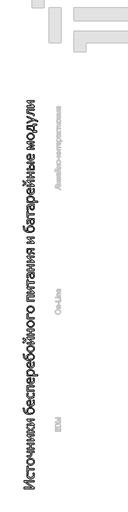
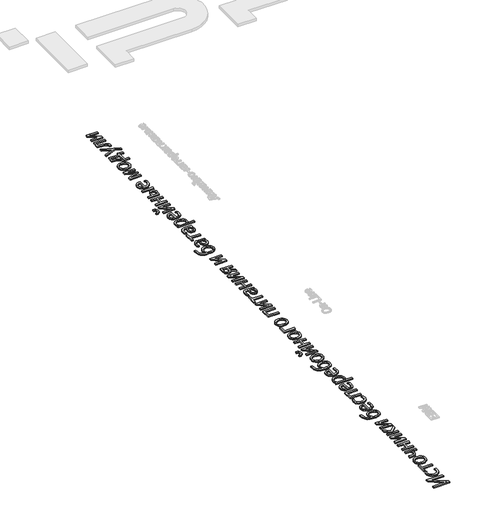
# One storey, part 2 of 14: 1 proxy.
"""IFC4 building model written with IfcOpenShell, lengths in millimetres."""

from ifc_helpers import new_model, si_unit, origin, origin_with_axes, place, context, project, spatial, polyline, outline, extrude, element, save

model = new_model("IFC4")

# Units and contexts
model_context = context("Model", 3, world=origin())
ifc_project = project(units=[si_unit("LENGTHUNIT", "METRE", prefix="MILLI")], contexts=[model_context])

# Site, building, storey
site = spatial("IfcSite", under=ifc_project)
building = spatial("IfcBuilding", under=site)
storey = spatial("IfcBuildingStorey", under=building, Name="Этаж 01", Elevation=0.0)

# Proxy
placement = place(None, origin())
element("IfcBuildingElementProxy", 1, Name="300 мм Corbel", ObjectType="300 мм Corbel", at=placement, inside=storey, context=model_context, shape_type="SweptSolid", body=[
    extrude(outline(polyline([(1442.0785227, -10444.0301069), (1442.0785227, -10407.4240139), (1742.5788966, -10407.4240139), (1742.5788966, -10446.377766), (1606.6755157, -10446.377766), (1493.2922728, -10443.5084048), (1575.0255921, -10498.5479698), (1742.5788966, -10615.6700774), (1742.5788966, -10652.2761704), (1442.0785227, -10652.2761704), (1442.0785227, -10613.3224182), (1593.8938158, -10613.3224182), (1691.3651465, -10616.1917794), (1609.6318273, -10561.1522144), (1442.0785227, -10444.0301069)])), origin_with_axes(), (0.0, 0.0, 1.0), 20.0),
    extrude(outline(polyline([(1525.5508488, -10251.3481542), (1528.6375859, -10221.9154642), (1537.2021943, -10197.8736953), (1564.504601, -10197.8736953), (1556.1573684, -10223.7414213), (1553.3749575, -10247.7831903), (1557.7224745, -10273.4335405), (1572.0258054, -10296.1275791), (1583.5902005, -10305.1595456), (1598.3717583, -10312.2568671), (1616.7291487, -10316.8543663), (1639.0210421, -10318.3868661), (1671.5404691, -10313.8219732), (1697.2777696, -10300.2577202), (1706.9509949, -10290.1062681), (1714.2330859, -10277.6506319), (1718.7979787, -10262.9886309), (1720.3196097, -10246.2180841), (1717.4067733, -10220.1764574), (1709.1899662, -10194.5695824), (1736.6662735, -10194.5695824), (1740.883365, -10204.4384459), (1744.6222296, -10217.9157486), (1747.1872646, -10233.5233346), (1748.1437183, -10250.0438991), (1746.5351371, -10270.8467679), (1741.7093932, -10290.475807), (1733.5360613, -10308.1375948), (1721.8847158, -10323.0387092), (1706.7227503, -10335.0813313), (1688.0175585, -10344.1676418), (1665.6604524, -10349.8737578), (1639.5427441, -10351.7757965), (1601.893247, -10347.7760809), (1572.5040322, -10336.7333877), (1550.8968728, -10320.0389225), (1536.3326909, -10298.90999), (1528.1158838, -10275.1725473), (1525.5508488, -10251.3481542)])), origin_with_axes(), (0.0, 0.0, 1.0), 20.0),
    extrude(outline(polyline([(1558.9397792, -10090.2291748), (1558.9397792, -10162.224056), (1531.1156706, -10162.224056), (1531.1156706, -9984.8453631), (1558.9397792, -9984.8453631), (1558.9397792, -10056.8402444), (1742.5788966, -10056.8402444), (1742.5788966, -10090.2291748), (1558.9397792, -10090.2291748)])), origin_with_axes(), (0.0, 0.0, 1.0), 20.0),
    extrude(outline(polyline([(1637.1081346, -9750.7750487), (1660.8781837, -9752.5466619), (1682.4527367, -9757.8615014), (1701.4622547, -9766.4261099), (1717.5371988, -9777.9470299), (1730.4927994, -9792.3047047), (1740.1442871, -9809.3795777), (1746.1438605, -9828.9216665), (1748.1437183, -9850.680989), (1746.1438605, -9872.9946199), (1740.1442871, -9892.8084286), (1730.4927994, -9909.9811207), (1717.5371988, -9924.3714019), (1701.4622547, -9935.8379779), (1682.4527367, -9944.2395545), (1660.8781837, -9949.3913621), (1637.1081346, -9951.1086313), (1613.0772345, -9949.3370182), (1591.4157311, -9944.0221786), (1572.3844755, -9935.4575702), (1556.2443187, -9923.9366502), (1543.2235053, -9909.546369), (1533.5502801, -9892.3736769), (1527.5507066, -9872.7337689), (1525.5508488, -9850.94184), (1527.5507066, -9828.8021098), (1533.5502801, -9808.9883012), (1543.2235053, -9791.7721339), (1556.2443187, -9777.4253279), (1572.3844755, -9766.0239646), (1591.4157311, -9757.6441256), (1613.0772345, -9752.492318), (1637.1081346, -9750.7750487)]), holes=[polyline([(1637.1081346, -9784.1639792), (1601.5889208, -9789.1201485), (1575.2864431, -9802.9887277), (1558.9397792, -9824.1611354), (1553.3749575, -9850.94184), (1558.9397792, -9877.7225447), (1575.2864431, -9898.8949524), (1601.5889208, -9912.7635315), (1637.1081346, -9917.7197009), (1672.3664973, -9912.7635315), (1698.5385496, -9898.7645269), (1714.7547879, -9877.5051688), (1720.3196097, -9850.680989), (1714.7547879, -9824.0307099), (1698.5385496, -9802.9887277), (1672.3664973, -9789.1201485), (1637.1081346, -9784.1639792)])]), origin_with_axes(), (0.0, 0.0, 1.0), 20.0),
    extrude(outline(polyline([(1649.5420332, -9572.7007531), (1660.236925, -9597.9163516), (1664.6713923, -9631.9139344), (1661.7585559, -9658.6076887), (1651.1940896, -9682.7798831), (1642.1186479, -9692.3444205), (1630.1955826, -9699.8221497), (1614.9684044, -9704.6478936), (1595.9806239, -9706.2564748), (1531.1156706, -9706.2564748), (1531.1156706, -9672.8675444), (1592.154809, -9672.8675444), (1610.1535293, -9670.9981121), (1624.3699098, -9664.2594608), (1633.5866458, -9650.9125836), (1636.8472836, -9629.4793249), (1632.7171424, -9598.3945785), (1620.7614707, -9572.7007531), (1531.1156706, -9572.7007531), (1531.1156706, -9539.3118227), (1742.5788966, -9539.3118227), (1742.5788966, -9572.7007531), (1649.5420332, -9572.7007531)])), origin_with_axes(), (0.0, 0.0, 1.0), 20.0),
    extrude(outline(polyline([(1742.5788966, -9333.4134184), (1647.9769271, -9333.4134184), (1647.9769271, -9439.1450314), (1742.5788966, -9439.1450314), (1742.5788966, -9472.5339618), (1531.1156706, -9472.5339618), (1531.1156706, -9439.1450314), (1620.1528184, -9439.1450314), (1620.1528184, -9333.4134184), (1531.1156706, -9333.4134184), (1531.1156706, -9300.0244879), (1742.5788966, -9300.0244879), (1742.5788966, -9333.4134184)])), origin_with_axes(), (0.0, 0.0, 1.0), 20.0),
    extrude(outline(polyline([(1742.5788966, -9196.9883354), (1742.5788966, -9227.6818053), (1531.1156706, -9227.6818053), (1531.1156706, -9194.2928749), (1647.1074237, -9194.2928749), (1692.9302527, -9195.4232293), (1669.7579871, -9179.1635158), (1642.846857, -9159.512739), (1531.1156706, -9074.7361579), (1531.1156706, -9044.042688), (1742.5788966, -9044.042688), (1742.5788966, -9077.4316184), (1626.5871435, -9077.4316184), (1580.7643145, -9076.301264), (1603.93658, -9092.6479278), (1630.8477101, -9112.3856549), (1742.5788966, -9196.9883354)])), origin_with_axes(), (0.0, 0.0, 1.0), 20.0),
    extrude(outline(polyline([(1634.5865747, -8943.7672088), (1531.1156706, -8851.1868346), (1531.1156706, -8807.1030124), (1636.4125319, -8902.6614357), (1742.5788966, -8801.2773396), (1742.5788966, -8845.8828639), (1638.9340917, -8943.441145), (1742.5788966, -8943.8758967), (1742.5788966, -8977.2648271), (1531.1156706, -8977.2648271), (1531.1156706, -8943.8758967), (1634.5865747, -8943.7672088)])), origin_with_axes(), (0.0, 0.0, 1.0), 20.0),
    extrude(outline(polyline([(1742.5788966, -8729.5433094), (1742.5788966, -8760.2367793), (1531.1156706, -8760.2367793), (1531.1156706, -8726.8478489), (1647.1074237, -8726.8478489), (1692.9302527, -8727.9782033), (1669.7579871, -8711.7184898), (1642.846857, -8692.067713), (1531.1156706, -8607.2911318), (1531.1156706, -8576.5976619), (1742.5788966, -8576.5976619), (1742.5788966, -8609.9865924), (1626.5871435, -8609.9865924), (1580.7643145, -8608.856238), (1603.93658, -8625.2029018), (1630.8477101, -8644.9406289), (1742.5788966, -8729.5433094)])), origin_with_axes(), (0.0, 0.0, 1.0), 20.0),
    extrude(outline(polyline([(1554.3314112, -8394.2627997), (1537.1587192, -8359.9608907), (1531.1156706, -8326.0937334), (1532.767727, -8306.7472828), (1537.7238964, -8289.40069), (1545.8428843, -8274.2387246), (1556.9833966, -8261.4461558), (1571.1345644, -8251.1534094), (1588.2855189, -8243.4909107), (1608.3167034, -8238.7303796), (1631.1085612, -8237.1435359), (1656.6936986, -8238.7847236), (1679.713801, -8243.7082865), (1699.7993295, -8251.7837993), (1716.5807451, -8262.8808364), (1729.9819662, -8276.9341851), (1739.9269113, -8293.8786325), (1746.0895166, -8313.5620157), (1748.1437183, -8335.8321714), (1745.9699599, -8357.3958557), (1739.4486844, -8376.5249304), (1728.2864345, -8393.0237573), (1712.1897529, -8406.6966982), (1691.0064764, -8417.5111467), (1664.5844419, -8425.4344964), (1632.6519297, -8430.2928467), (1594.9372199, -8431.9122967), (1557.8420312, -8430.2167651), (1525.6812743, -8425.1301703), (1498.2158358, -8416.3590547), (1475.2066021, -8403.6099612), (1456.6100983, -8386.7633329), (1442.3828489, -8365.6996131), (1432.3292159, -8340.147082), (1426.2535609, -8309.8340199), (1419.8192358, -8257.2290644), (1447.6433445, -8257.2290644), (1454.2515703, -8308.7036654), (1461.8162498, -8345.440184), (1468.0440679, -8359.78699), (1477.1629848, -8371.6122362), (1489.7490465, -8380.9593977), (1506.3782989, -8387.8719497), (1554.3314112, -8394.2627997)]), holes=[polyline([(1558.9397792, -8333.2236612), (1560.6244421, -8350.048552), (1565.6784306, -8367.3081944), (1583.2858743, -8398.5233663), (1604.3278565, -8399.218969), (1655.9763583, -8394.5671259), (1691.9737989, -8381.2637239), (1704.4294351, -8371.7209241), (1713.2766321, -8360.3956424), (1718.5588653, -8347.4943857), (1720.3196097, -8333.2236612), (1714.5808872, -8307.2689848), (1707.4618282, -8296.5849619), (1697.5820958, -8287.5747329), (1669.7579871, -8274.9669337), (1631.8911142, -8270.5324663), (1598.3282831, -8275.8799122), (1575.7211948, -8289.9658672), (1562.9394949, -8310.0513957), (1558.9397792, -8333.2236612)])]), origin_with_axes(), (0.0, 0.0, 1.0), 20.0),
    extrude(outline(polyline([(1720.3196097, -8082.6327823), (1717.4067733, -8051.2871849), (1709.1899662, -8023.0717997), (1736.6662735, -8023.0717997), (1745.0569813, -8051.1567594), (1748.1437183, -8087.0672496), (1742.3615208, -8129.7163912), (1734.7968412, -8148.1498633), (1723.6671977, -8163.5400734), (1708.7769521, -8175.8435464), (1689.9304659, -8185.0168073), (1666.9647075, -8190.7229233), (1639.7166448, -8192.624962), (1612.6968267, -8190.6468418), (1589.5462988, -8184.7124811), (1570.0694227, -8175.4957451), (1554.0705602, -8163.6704989), (1541.5931865, -8149.5410687), (1532.6807767, -8133.4117807), (1527.3333308, -8115.9130248), (1525.5508488, -8097.6751911), (1531.3765216, -8064.894913), (1538.8759884, -8050.6785325), (1549.7230432, -8038.4620098), (1564.0589805, -8028.4301143), (1582.0250944, -8020.7676157), (1603.7735481, -8015.9092654), (1629.4565047, -8014.2898153), (1633.9344472, -8014.2898153), (1642.4121053, -8014.5506664), (1642.4121053, -8161.0619887), (1662.1063573, -8159.529489), (1678.5834466, -8154.9319897), (1692.0390117, -8147.6825052), (1702.6686907, -8138.1940494), (1716.1025182, -8113.3262522), (1720.3196097, -8082.6327823)]), holes=[polyline([(1553.3749575, -8099.1533469), (1558.2007014, -8122.0212862), (1571.3302026, -8140.4547582), (1590.7636036, -8153.2364581), (1614.5879966, -8159.2360316), (1614.5879966, -8047.9395968), (1590.5462277, -8051.2871849), (1571.1128268, -8061.1560484), (1558.113751, -8077.1549109), (1553.3749575, -8099.1533469)])]), origin_with_axes(), (0.0, 0.0, 1.0), 20.0),
    extrude(outline(polyline([(1525.5508488, -7864.0396284), (1528.6375859, -7834.6069384), (1537.2021943, -7810.5651695), (1564.504601, -7810.5651695), (1556.1573684, -7836.4328956), (1553.3749575, -7860.4746645), (1557.7224745, -7886.1250147), (1572.0258054, -7908.8190533), (1583.5902005, -7917.8510199), (1598.3717583, -7924.9483413), (1616.7291487, -7929.5458406), (1639.0210421, -7931.0783403), (1671.5404691, -7926.5134475), (1697.2777696, -7912.9491945), (1706.9509949, -7902.7977423), (1714.2330859, -7890.3421062), (1718.7979787, -7875.6801051), (1720.3196097, -7858.9095584), (1717.4067733, -7832.8679316), (1709.1899662, -7807.2610566), (1736.6662735, -7807.2610566), (1740.883365, -7817.1299202), (1744.6222296, -7830.6072228), (1747.1872646, -7846.2148088), (1748.1437183, -7862.7353733), (1746.5351371, -7883.5382421), (1741.7093932, -7903.1672813), (1733.5360613, -7920.829069), (1721.8847158, -7935.7301835), (1706.7227503, -7947.7728055), (1688.0175585, -7956.859116), (1665.6604524, -7962.565232), (1639.5427441, -7964.4672707), (1601.893247, -7960.4675551), (1572.5040322, -7949.424862), (1550.8968728, -7932.7303967), (1536.3326909, -7911.6014642), (1528.1158838, -7887.8640215), (1525.5508488, -7864.0396284)])), origin_with_axes(), (0.0, 0.0, 1.0), 20.0),
    extrude(outline(polyline([(1558.9397792, -7719.6151142), (1742.5788966, -7719.6151142), (1742.5788966, -7753.0040447), (1531.1156706, -7753.0040447), (1531.1156706, -7580.4945708), (1742.5788966, -7580.4945708), (1742.5788966, -7613.8835012), (1558.9397792, -7613.8835012), (1558.9397792, -7719.6151142)])), origin_with_axes(), (0.0, 0.0, 1.0), 20.0),
    extrude(outline(polyline([(1720.3196097, -7414.8541737), (1717.4067733, -7383.5085763), (1709.1899662, -7355.293191), (1736.6662735, -7355.293191), (1745.0569813, -7383.3781508), (1748.1437183, -7419.288641), (1742.3615208, -7461.9377826), (1734.7968412, -7480.3712546), (1723.6671977, -7495.7614648), (1708.7769521, -7508.0649378), (1689.9304659, -7517.2381987), (1666.9647075, -7522.9443147), (1639.7166448, -7524.8463534), (1612.6968267, -7522.8682332), (1589.5462988, -7516.9338725), (1570.0694227, -7507.7171365), (1554.0705602, -7495.8918903), (1541.5931865, -7481.7624601), (1532.6807767, -7465.6331721), (1527.3333308, -7448.1344162), (1525.5508488, -7429.8965825), (1531.3765216, -7397.1163044), (1538.8759884, -7382.8999239), (1549.7230432, -7370.6834012), (1564.0589805, -7360.6515057), (1582.0250944, -7352.989007), (1603.7735481, -7348.1306568), (1629.4565047, -7346.5112067), (1633.9344472, -7346.5112067), (1642.4121053, -7346.7720578), (1642.4121053, -7493.2833801), (1662.1063573, -7491.7508804), (1678.5834466, -7487.1533811), (1692.0390117, -7479.9038966), (1702.6686907, -7470.4154408), (1716.1025182, -7445.5476436), (1720.3196097, -7414.8541737)]), holes=[polyline([(1553.3749575, -7431.3747382), (1558.2007014, -7454.2426776), (1571.3302026, -7472.6761496), (1590.7636036, -7485.4578495), (1614.5879966, -7491.457423), (1614.5879966, -7380.1609882), (1590.5462277, -7383.5085763), (1571.1128268, -7393.3774398), (1558.113751, -7409.3763023), (1553.3749575, -7431.3747382)])]), origin_with_axes(), (0.0, 0.0, 1.0), 20.0),
    extrude(outline(polyline([(1634.4126741, -7101.9199013), (1673.4533766, -7106.2239431), (1703.1903927, -7117.5274872), (1724.4497508, -7133.9611014), (1738.2313796, -7153.5249279), (1745.7960592, -7174.0886832), (1748.1437183, -7193.7394599), (1746.5568747, -7211.596886), (1741.7963436, -7226.9110145), (1733.9273378, -7240.2470229), (1723.0150702, -7252.1700882), (1848.3105096, -7252.7787406), (1848.3105096, -7285.5590186), (1531.1156706, -7285.5590186), (1531.1156706, -7260.0825691), (1555.1139643, -7252.8656909), (1546.4624055, -7244.9097348), (1537.4630453, -7232.910588), (1529.1158127, -7214.7814421), (1525.5508488, -7191.7396021), (1531.5504222, -7158.0898207), (1539.3324776, -7142.7865609), (1550.679497, -7129.3962086), (1565.6784306, -7118.1904836), (1584.4162288, -7109.4411056), (1607.2189553, -7103.8002024), (1634.4126741, -7101.9199013)]), holes=[polyline([(1634.6735251, -7135.3088317), (1600.849843, -7139.221597), (1575.3299183, -7150.9598928), (1559.0702048, -7170.2193931), (1553.3749575, -7196.6088212), (1556.4616946, -7216.2161228), (1564.24375, -7232.2149852), (1574.3734645, -7244.5184583), (1584.0684274, -7252.7787406), (1694.7562098, -7252.7787406), (1713.4505328, -7227.8239931), (1718.6023404, -7213.3032864), (1720.3196097, -7197.7391756), (1716.5807451, -7176.9580444), (1703.1903927, -7156.6986153), (1676.9313902, -7141.3518803), (1658.0631665, -7136.8195938), (1634.6735251, -7135.3088317)])]), origin_with_axes(), (0.0, 0.0, 1.0), 20.0),
    extrude(outline(polyline([(1720.3196097, -6941.8443259), (1717.4067733, -6910.4987285), (1709.1899662, -6882.2833433), (1736.6662735, -6882.2833433), (1745.0569813, -6910.368303), (1748.1437183, -6946.2787933), (1742.3615208, -6988.9279349), (1734.7968412, -7007.3614069), (1723.6671977, -7022.751617), (1708.7769521, -7035.0550901), (1689.9304659, -7044.2283509), (1666.9647075, -7049.9344669), (1639.7166448, -7051.8365056), (1612.6968267, -7049.8583854), (1589.5462988, -7043.9240247), (1570.0694227, -7034.7072887), (1554.0705602, -7022.8820425), (1541.5931865, -7008.7526123), (1532.6807767, -6992.6233243), (1527.3333308, -6975.1245685), (1525.5508488, -6956.8867347), (1531.3765216, -6924.1064567), (1538.8759884, -6909.8900761), (1549.7230432, -6897.6735534), (1564.0589805, -6887.641658), (1582.0250944, -6879.9791593), (1603.7735481, -6875.120809), (1629.4565047, -6873.501359), (1633.9344472, -6873.501359), (1642.4121053, -6873.76221), (1642.4121053, -7020.2735323), (1662.1063573, -7018.7410326), (1678.5834466, -7014.1435334), (1692.0390117, -7006.8940488), (1702.6686907, -6997.405593), (1716.1025182, -6972.5377958), (1720.3196097, -6941.8443259)]), holes=[polyline([(1553.3749575, -6958.3648905), (1558.2007014, -6981.2328298), (1571.3302026, -6999.6663018), (1590.7636036, -7012.4480018), (1614.5879966, -7018.4475752), (1614.5879966, -6907.1511404), (1590.5462277, -6910.4987285), (1571.1128268, -6920.367592), (1558.113751, -6936.3664545), (1553.3749575, -6958.3648905)])]), origin_with_axes(), (0.0, 0.0, 1.0), 20.0),
    extrude(outline(polyline([(1554.3314112, -6786.0293173), (1537.1587192, -6751.7274083), (1531.1156706, -6717.860251), (1532.767727, -6698.5138004), (1537.7238964, -6681.1672076), (1545.8428843, -6666.0052422), (1556.9833966, -6653.2126734), (1571.1345644, -6642.919927), (1588.2855189, -6635.2574283), (1608.3167034, -6630.4968972), (1631.1085612, -6628.9100535), (1656.6936986, -6630.5512412), (1679.713801, -6635.4748041), (1699.7993295, -6643.5503169), (1716.5807451, -6654.647354), (1729.9819662, -6668.7007027), (1739.9269113, -6685.6451501), (1746.0895166, -6705.3285333), (1748.1437183, -6727.598689), (1745.9699599, -6749.1623733), (1739.4486844, -6768.291448), (1728.2864345, -6784.7902749), (1712.1897529, -6798.4632158), (1691.0064764, -6809.2776643), (1664.5844419, -6817.201014), (1632.6519297, -6822.0593643), (1594.9372199, -6823.6788143), (1557.8420312, -6821.9832827), (1525.6812743, -6816.8966879), (1498.2158358, -6808.1255723), (1475.2066021, -6795.3764788), (1456.6100983, -6778.5298505), (1442.3828489, -6757.4661307), (1432.3292159, -6731.9135996), (1426.2535609, -6701.6005375), (1419.8192358, -6648.995582), (1447.6433445, -6648.995582), (1454.2515703, -6700.470183), (1461.8162498, -6737.2067016), (1468.0440679, -6751.5535076), (1477.1629848, -6763.3787538), (1489.7490465, -6772.7259153), (1506.3782989, -6779.6384673), (1554.3314112, -6786.0293173)]), holes=[polyline([(1558.9397792, -6724.9901788), (1560.6244421, -6741.8150696), (1565.6784306, -6759.074712), (1583.2858743, -6790.2898839), (1604.3278565, -6790.9854866), (1655.9763583, -6786.3336435), (1691.9737989, -6773.0302415), (1704.4294351, -6763.4874417), (1713.2766321, -6752.16216), (1718.5588653, -6739.2609033), (1720.3196097, -6724.9901788), (1714.5808872, -6699.0355024), (1707.4618282, -6688.3514795), (1697.5820958, -6679.3412505), (1669.7579871, -6666.7334513), (1631.8911142, -6662.2989839), (1598.3282831, -6667.6464298), (1575.7211948, -6681.7323848), (1562.9394949, -6701.8179133), (1558.9397792, -6724.9901788)])]), origin_with_axes(), (0.0, 0.0, 1.0), 20.0),
    extrude(outline(polyline([(1637.1081346, -6384.057897), (1660.8781837, -6385.8295102), (1682.4527367, -6391.1443497), (1701.4622547, -6399.7089581), (1717.5371988, -6411.2298782), (1730.4927994, -6425.587553), (1740.1442871, -6442.6624259), (1746.1438605, -6462.2045148), (1748.1437183, -6483.9638373), (1746.1438605, -6506.2774682), (1740.1442871, -6526.0912768), (1730.4927994, -6543.2639689), (1717.5371988, -6557.6542501), (1701.4622547, -6569.1208262), (1682.4527367, -6577.5224028), (1660.8781837, -6582.6742104), (1637.1081346, -6584.3914796), (1613.0772345, -6582.6198664), (1591.4157311, -6577.3050269), (1572.3844755, -6568.7404185), (1556.2443187, -6557.2194984), (1543.2235053, -6542.8292172), (1533.5502801, -6525.6565252), (1527.5507066, -6506.0166172), (1525.5508488, -6484.2246883), (1527.5507066, -6462.0849581), (1533.5502801, -6442.2711494), (1543.2235053, -6425.0549822), (1556.2443187, -6410.7081761), (1572.3844755, -6399.3068128), (1591.4157311, -6390.9269738), (1613.0772345, -6385.7751662), (1637.1081346, -6384.057897)]), holes=[polyline([(1637.1081346, -6417.4468274), (1601.5889208, -6422.4029968), (1575.2864431, -6436.271576), (1558.9397792, -6457.4439837), (1553.3749575, -6484.2246883), (1558.9397792, -6511.0053929), (1575.2864431, -6532.1778006), (1601.5889208, -6546.0463798), (1637.1081346, -6551.0025492), (1672.3664973, -6546.0463798), (1698.5385496, -6532.0473751), (1714.7547879, -6510.7880171), (1720.3196097, -6483.9638373), (1714.7547879, -6457.3135582), (1698.5385496, -6436.271576), (1672.3664973, -6422.4029968), (1637.1081346, -6417.4468274)])]), origin_with_axes(), (0.0, 0.0, 1.0), 20.0),
    extrude(outline(polyline([(1458.772988, -6234.1555114), (1455.892758, -6219.0478899), (1447.2520679, -6207.1139558), (1433.2421945, -6198.7449856), (1414.254414, -6194.3322559), (1414.254414, -6163.1170839), (1442.2089482, -6169.1166574), (1465.1638379, -6183.2460876), (1480.8148991, -6205.0706228), (1485.1515472, -6218.8196453), (1486.5970966, -6234.4163625), (1485.1515472, -6249.784835), (1480.8148991, -6263.3708256), (1465.1638379, -6284.8475595), (1442.2089482, -6298.542238), (1414.254414, -6304.3244355), (1414.254414, -6273.3701146), (1433.2421945, -6269.0660728), (1447.2520679, -6261.0231664), (1455.892758, -6249.3500833), (1458.772988, -6234.1555114)])), origin_with_axes(), (0.0, 0.0, 1.0), 20.0),
    extrude(outline(polyline([(1742.5788966, -6297.7162097), (1742.5788966, -6328.4096796), (1531.1156706, -6328.4096796), (1531.1156706, -6295.0207492), (1647.1074237, -6295.0207492), (1692.9302527, -6296.1511036), (1669.7579871, -6279.8913901), (1642.846857, -6260.2406133), (1531.1156706, -6175.4640322), (1531.1156706, -6144.7705623), (1742.5788966, -6144.7705623), (1742.5788966, -6178.1594927), (1626.5871435, -6178.1594927), (1580.7643145, -6177.0291383), (1603.93658, -6193.3758021), (1630.8477101, -6213.1135292), (1742.5788966, -6297.7162097)])), origin_with_axes(), (0.0, 0.0, 1.0), 20.0),
    extrude(outline(polyline([(1742.5788966, -5938.8721579), (1647.9769271, -5938.8721579), (1647.9769271, -6044.603771), (1742.5788966, -6044.603771), (1742.5788966, -6077.9927014), (1531.1156706, -6077.9927014), (1531.1156706, -6044.603771), (1620.1528184, -6044.603771), (1620.1528184, -5938.8721579), (1531.1156706, -5938.8721579), (1531.1156706, -5905.4832275), (1742.5788966, -5905.4832275), (1742.5788966, -5938.8721579)])), origin_with_axes(), (0.0, 0.0, 1.0), 20.0),
    extrude(outline(polyline([(1637.1081346, -5643.9366058), (1660.8781837, -5645.708219), (1682.4527367, -5651.0230585), (1701.4622547, -5659.5876669), (1717.5371988, -5671.1085869), (1730.4927994, -5685.4662618), (1740.1442871, -5702.5411347), (1746.1438605, -5722.0832236), (1748.1437183, -5743.8425461), (1746.1438605, -5766.156177), (1740.1442871, -5785.9699856), (1730.4927994, -5803.1426777), (1717.5371988, -5817.5329589), (1701.4622547, -5828.999535), (1682.4527367, -5837.4011116), (1660.8781837, -5842.5529192), (1637.1081346, -5844.2701884), (1613.0772345, -5842.4985752), (1591.4157311, -5837.1837357), (1572.3844755, -5828.6191272), (1556.2443187, -5817.0982072), (1543.2235053, -5802.707926), (1533.5502801, -5785.5352339), (1527.5507066, -5765.895326), (1525.5508488, -5744.1033971), (1527.5507066, -5721.9636669), (1533.5502801, -5702.1498582), (1543.2235053, -5684.933691), (1556.2443187, -5670.5868849), (1572.3844755, -5659.1855216), (1591.4157311, -5650.8056826), (1613.0772345, -5645.653875), (1637.1081346, -5643.9366058)]), holes=[polyline([(1637.1081346, -5677.3255362), (1601.5889208, -5682.2817056), (1575.2864431, -5696.1502848), (1558.9397792, -5717.3226925), (1553.3749575, -5744.1033971), (1558.9397792, -5770.8841017), (1575.2864431, -5792.0565094), (1601.5889208, -5805.9250886), (1637.1081346, -5810.881258), (1672.3664973, -5805.9250886), (1698.5385496, -5791.9260839), (1714.7547879, -5770.6667259), (1720.3196097, -5743.8425461), (1714.7547879, -5717.192267), (1698.5385496, -5696.1502848), (1672.3664973, -5682.2817056), (1637.1081346, -5677.3255362)])]), origin_with_axes(), (0.0, 0.0, 1.0), 20.0),
    extrude(outline(polyline([(1558.9397792, -5445.5159307), (1558.9397792, -5554.899458), (1742.5788966, -5554.899458), (1742.5788966, -5588.2883884), (1531.1156706, -5588.2883884), (1531.1156706, -5445.5159307), (1558.9397792, -5445.5159307)])), origin_with_axes(), (0.0, 0.0, 1.0), 20.0),
    extrude(outline(polyline([(1637.1081346, -5209.8805102), (1660.8781837, -5211.6521234), (1682.4527367, -5216.9669629), (1701.4622547, -5225.5315713), (1717.5371988, -5237.0524914), (1730.4927994, -5251.4101662), (1740.1442871, -5268.4850391), (1746.1438605, -5288.027128), (1748.1437183, -5309.7864505), (1746.1438605, -5332.1000814), (1740.1442871, -5351.91389), (1730.4927994, -5369.0865821), (1717.5371988, -5383.4768633), (1701.4622547, -5394.9434394), (1682.4527367, -5403.345016), (1660.8781837, -5408.4968236), (1637.1081346, -5410.2140928), (1613.0772345, -5408.4424796), (1591.4157311, -5403.1276401), (1572.3844755, -5394.5630316), (1556.2443187, -5383.0421116), (1543.2235053, -5368.6518304), (1533.5502801, -5351.4791383), (1527.5507066, -5331.8392304), (1525.5508488, -5310.0473015), (1527.5507066, -5287.9075713), (1533.5502801, -5268.0937626), (1543.2235053, -5250.8775954), (1556.2443187, -5236.5307893), (1572.3844755, -5225.129426), (1591.4157311, -5216.749587), (1613.0772345, -5211.5977794), (1637.1081346, -5209.8805102)]), holes=[polyline([(1637.1081346, -5243.2694406), (1601.5889208, -5248.22561), (1575.2864431, -5262.0941892), (1558.9397792, -5283.2665969), (1553.3749575, -5310.0473015), (1558.9397792, -5336.8280061), (1575.2864431, -5358.0004138), (1601.5889208, -5371.868993), (1637.1081346, -5376.8251624), (1672.3664973, -5371.868993), (1698.5385496, -5357.8699883), (1714.7547879, -5336.6106303), (1720.3196097, -5309.7864505), (1714.7547879, -5283.1361714), (1698.5385496, -5262.0941892), (1672.3664973, -5248.22561), (1637.1081346, -5243.2694406)])]), origin_with_axes(), (0.0, 0.0, 1.0), 20.0),
    extrude(outline(polyline([(1558.9397792, -5031.8062146), (1742.5788966, -5031.8062146), (1742.5788966, -5065.195145), (1531.1156706, -5065.195145), (1531.1156706, -4892.6856711), (1742.5788966, -4892.6856711), (1742.5788966, -4926.0746015), (1558.9397792, -4926.0746015), (1558.9397792, -5031.8062146)])), origin_with_axes(), (0.0, 0.0, 1.0), 20.0),
    extrude(outline(polyline([(1742.5788966, -4795.2143404), (1742.5788966, -4825.9078103), (1531.1156706, -4825.9078103), (1531.1156706, -4792.5188798), (1647.1074237, -4792.5188798), (1692.9302527, -4793.6492342), (1669.7579871, -4777.3895207), (1642.846857, -4757.738744), (1531.1156706, -4672.9621628), (1531.1156706, -4642.2686929), (1742.5788966, -4642.2686929), (1742.5788966, -4675.6576233), (1626.5871435, -4675.6576233), (1580.7643145, -4674.5272689), (1603.93658, -4690.8739328), (1630.8477101, -4710.6116599), (1742.5788966, -4795.2143404)])), origin_with_axes(), (0.0, 0.0, 1.0), 20.0),
    extrude(outline(polyline([(1558.9397792, -4525.4074364), (1558.9397792, -4597.4023176), (1531.1156706, -4597.4023176), (1531.1156706, -4420.0236247), (1558.9397792, -4420.0236247), (1558.9397792, -4492.018506), (1742.5788966, -4492.018506), (1742.5788966, -4525.4074364), (1558.9397792, -4525.4074364)])), origin_with_axes(), (0.0, 0.0, 1.0), 20.0),
    extrude(outline(polyline([(1719.1892552, -4251.6877671), (1729.7537215, -4263.2086871), (1739.1443582, -4277.9467697), (1745.7091088, -4296.206341), (1748.1437183, -4317.3352736), (1743.6657759, -4345.2028574), (1730.4927994, -4366.9839175), (1709.3203917, -4381.2002981), (1681.0180561, -4386.2868929), (1653.1939474, -4380.6351208), (1632.3693411, -4364.810159), (1619.1963646, -4340.3336384), (1614.5879966, -4308.7271899), (1617.5443082, -4278.4249966), (1624.2394843, -4253.6006746), (1609.1101252, -4252.7311712), (1592.5460855, -4253.8615256), (1579.8948111, -4257.6873406), (1569.4064264, -4265.1650698), (1560.8961619, -4276.1208126), (1555.2552586, -4291.0545334), (1553.3749575, -4310.4661967), (1556.3312691, -4340.6814398), (1564.504601, -4368.8098747), (1537.2891447, -4368.8098747), (1532.5503512, -4356.2455506), (1528.7680114, -4340.985766), (1526.376877, -4324.0739249), (1525.5508488, -4306.2056301), (1528.3876036, -4277.1207415), (1536.8978681, -4254.0354263), (1550.0817134, -4236.819259), (1566.9392105, -4225.3418142), (1582.6337468, -4220.7334462), (1601.4584953, -4219.3422408), (1742.5788966, -4219.3422408), (1742.5788966, -4247.9489025), (1719.1892552, -4251.6877671)]), holes=[polyline([(1650.3245862, -4252.7311712), (1645.151041, -4275.8164864), (1642.4121053, -4305.162226), (1644.7815021, -4325.1499353), (1651.8896923, -4340.2466881), (1663.9105768, -4349.7351439), (1681.0180561, -4352.8979625), (1698.4081241, -4349.7242751), (1710.7115971, -4341.0292411), (1717.9284753, -4327.943215), (1720.3196097, -4311.7704518), (1717.0589719, -4290.7284696), (1709.2769165, -4273.425352), (1700.2340812, -4260.5567018), (1693.1911037, -4252.7311712), (1650.3245862, -4252.7311712)])]), origin_with_axes(), (0.0, 0.0, 1.0), 20.0),
    extrude(outline(polyline([(1742.5788966, -4013.4438364), (1647.9769271, -4013.4438364), (1647.9769271, -4119.1754495), (1742.5788966, -4119.1754495), (1742.5788966, -4152.5643799), (1531.1156706, -4152.5643799), (1531.1156706, -4119.1754495), (1620.1528184, -4119.1754495), (1620.1528184, -4013.4438364), (1531.1156706, -4013.4438364), (1531.1156706, -3980.054906), (1742.5788966, -3980.054906), (1742.5788966, -4013.4438364)])), origin_with_axes(), (0.0, 0.0, 1.0), 20.0),
    extrude(outline(polyline([(1742.5788966, -3877.0187535), (1742.5788966, -3907.7122234), (1531.1156706, -3907.7122234), (1531.1156706, -3874.323293), (1647.1074237, -3874.323293), (1692.9302527, -3875.4536474), (1669.7579871, -3859.1939339), (1642.846857, -3839.5431571), (1531.1156706, -3754.766576), (1531.1156706, -3724.0731061), (1742.5788966, -3724.0731061), (1742.5788966, -3757.4620365), (1626.5871435, -3757.4620365), (1580.7643145, -3756.3316821), (1603.93658, -3772.6783459), (1630.8477101, -3792.416073), (1742.5788966, -3877.0187535)])), origin_with_axes(), (0.0, 0.0, 1.0), 20.0),
    extrude(outline(polyline([(1599.6325382, -3662.8600669), (1580.7099705, -3660.3819822), (1563.5916224, -3652.9477282), (1549.2556852, -3640.4920921), (1538.6803501, -3622.949861), (1533.028578, -3602.9512829), (1531.1156706, -3575.3010749), (1531.1156706, -3495.9154148), (1742.5788966, -3495.9154148), (1742.5788966, -3529.3043452), (1659.1065705, -3529.3043452), (1659.1065705, -3584.9525626), (1742.5788966, -3635.0359582), (1742.5788966, -3668.4248887), (1655.2807556, -3618.341493), (1647.6291257, -3637.0792912), (1635.151752, -3651.0348207), (1618.7616129, -3659.816805), (1599.6325382, -3662.8600669)]), holes=[polyline([(1558.9397792, -3575.0402239), (1559.9831833, -3594.1692986), (1563.7220479, -3608.1683033), (1576.4167975, -3623.7758893), (1585.8074342, -3628.0473247), (1597.284879, -3629.4711365), (1613.153316, -3626.1670236), (1623.630832, -3616.5590111), (1629.4565047, -3601.3861768), (1631.2824618, -3581.3875987), (1631.2824618, -3529.3043452), (1558.9397792, -3529.3043452), (1558.9397792, -3575.0402239)])]), origin_with_axes(), (0.0, 0.0, 1.0), 20.0),
    extrude(outline(polyline([(1742.5788966, -3309.4069362), (1742.5788966, -3340.1004061), (1531.1156706, -3340.1004061), (1531.1156706, -3306.7114757), (1647.1074237, -3306.7114757), (1692.9302527, -3307.8418301), (1669.7579871, -3291.5821166), (1642.846857, -3271.9313398), (1531.1156706, -3187.1547586), (1531.1156706, -3156.4612887), (1742.5788966, -3156.4612887), (1742.5788966, -3189.8502192), (1626.5871435, -3189.8502192), (1580.7643145, -3188.7198647), (1603.93658, -3205.0665286), (1630.8477101, -3224.8042557), (1742.5788966, -3309.4069362)])), origin_with_axes(), (0.0, 0.0, 1.0), 20.0),
    extrude(outline(polyline([(1554.3314112, -2974.1264265), (1537.1587192, -2939.8245175), (1531.1156706, -2905.9573602), (1532.767727, -2886.6109096), (1537.7238964, -2869.2643168), (1545.8428843, -2854.1023513), (1556.9833966, -2841.3097826), (1571.1345644, -2831.0170362), (1588.2855189, -2823.3545375), (1608.3167034, -2818.5940064), (1631.1085612, -2817.0071627), (1656.6936986, -2818.6483504), (1679.713801, -2823.5719133), (1699.7993295, -2831.6474261), (1716.5807451, -2842.7444632), (1729.9819662, -2856.7978119), (1739.9269113, -2873.7422593), (1746.0895166, -2893.4256425), (1748.1437183, -2915.6957982), (1745.9699599, -2937.2594824), (1739.4486844, -2956.3885572), (1728.2864345, -2972.8873841), (1712.1897529, -2986.560325), (1691.0064764, -2997.3747735), (1664.5844419, -3005.2981232), (1632.6519297, -3010.1564735), (1594.9372199, -3011.7759235), (1557.8420312, -3010.0803919), (1525.6812743, -3004.993797), (1498.2158358, -2996.2226815), (1475.2066021, -2983.473588), (1456.6100983, -2966.6269597), (1442.3828489, -2945.5632399), (1432.3292159, -2920.0107088), (1426.2535609, -2889.6976466), (1419.8192358, -2837.0926912), (1447.6433445, -2837.0926912), (1454.2515703, -2888.5672922), (1461.8162498, -2925.3038107), (1468.0440679, -2939.6506168), (1477.1629848, -2951.475863), (1489.7490465, -2960.8230245), (1506.3782989, -2967.7355765), (1554.3314112, -2974.1264265)]), holes=[polyline([(1558.9397792, -2913.087288), (1560.6244421, -2929.9121787), (1565.6784306, -2947.1718212), (1583.2858743, -2978.3869931), (1604.3278565, -2979.0825958), (1655.9763583, -2974.4307527), (1691.9737989, -2961.1273507), (1704.4294351, -2951.5845509), (1713.2766321, -2940.2592692), (1718.5588653, -2927.3580125), (1720.3196097, -2913.087288), (1714.5808872, -2887.1326116), (1707.4618282, -2876.4485886), (1697.5820958, -2867.4383597), (1669.7579871, -2854.8305604), (1631.8911142, -2850.3960931), (1598.3282831, -2855.743539), (1575.7211948, -2869.829494), (1562.9394949, -2889.9150225), (1558.9397792, -2913.087288)])]), origin_with_axes(), (0.0, 0.0, 1.0), 20.0),
    extrude(outline(polyline([(1719.1892552, -2637.889463), (1729.7537215, -2649.410383), (1739.1443582, -2664.1484656), (1745.7091088, -2682.4080369), (1748.1437183, -2703.5369694), (1743.6657759, -2731.4045533), (1730.4927994, -2753.1856134), (1709.3203917, -2767.4019939), (1681.0180561, -2772.4885888), (1653.1939474, -2766.8368167), (1632.3693411, -2751.0118549), (1619.1963646, -2726.5353343), (1614.5879966, -2694.9288858), (1617.5443082, -2664.6266924), (1624.2394843, -2639.8023705), (1609.1101252, -2638.9328671), (1592.5460855, -2640.0632215), (1579.8948111, -2643.8890364), (1569.4064264, -2651.3667656), (1560.8961619, -2662.3225084), (1555.2552586, -2677.2562293), (1553.3749575, -2696.6678926), (1556.3312691, -2726.8831356), (1564.504601, -2755.0115705), (1537.2891447, -2755.0115705), (1532.5503512, -2742.4472464), (1528.7680114, -2727.1874618), (1526.376877, -2710.2756208), (1525.5508488, -2692.407326), (1528.3876036, -2663.3224373), (1536.8978681, -2640.2371222), (1550.0817134, -2623.0209549), (1566.9392105, -2611.5435101), (1582.6337468, -2606.9351421), (1601.4584953, -2605.5439366), (1742.5788966, -2605.5439366), (1742.5788966, -2634.1505984), (1719.1892552, -2637.889463)]), holes=[polyline([(1650.3245862, -2638.9328671), (1645.151041, -2662.0181822), (1642.4121053, -2691.3639219), (1644.7815021, -2711.3516312), (1651.8896923, -2726.4483839), (1663.9105768, -2735.9368397), (1681.0180561, -2739.0996584), (1698.4081241, -2735.925971), (1710.7115971, -2727.230937), (1717.9284753, -2714.1449109), (1720.3196097, -2697.9721477), (1717.0589719, -2676.9301655), (1709.2769165, -2659.6270479), (1700.2340812, -2646.7583976), (1693.1911037, -2638.9328671), (1650.3245862, -2638.9328671)])]), origin_with_axes(), (0.0, 0.0, 1.0), 20.0),
    extrude(outline(polyline([(1558.9397792, -2488.6826801), (1558.9397792, -2560.6775614), (1531.1156706, -2560.6775614), (1531.1156706, -2383.2988685), (1558.9397792, -2383.2988685), (1558.9397792, -2455.2937497), (1742.5788966, -2455.2937497), (1742.5788966, -2488.6826801), (1558.9397792, -2488.6826801)])), origin_with_axes(), (0.0, 0.0, 1.0), 20.0),
    extrude(outline(polyline([(1719.1892552, -2214.9630109), (1729.7537215, -2226.4839309), (1739.1443582, -2241.2220134), (1745.7091088, -2259.4815848), (1748.1437183, -2280.6105173), (1743.6657759, -2308.4781012), (1730.4927994, -2330.2591613), (1709.3203917, -2344.4755418), (1681.0180561, -2349.5621367), (1653.1939474, -2343.9103646), (1632.3693411, -2328.0854028), (1619.1963646, -2303.6088822), (1614.5879966, -2272.0024337), (1617.5443082, -2241.7002403), (1624.2394843, -2216.8759183), (1609.1101252, -2216.0064149), (1592.5460855, -2217.1367694), (1579.8948111, -2220.9625843), (1569.4064264, -2228.4403135), (1560.8961619, -2239.3960563), (1555.2552586, -2254.3297771), (1553.3749575, -2273.7414405), (1556.3312691, -2303.9566835), (1564.504601, -2332.0851184), (1537.2891447, -2332.0851184), (1532.5503512, -2319.5207943), (1528.7680114, -2304.2610097), (1526.376877, -2287.3491686), (1525.5508488, -2269.4808738), (1528.3876036, -2240.3959852), (1536.8978681, -2217.31067), (1550.0817134, -2200.0945028), (1566.9392105, -2188.6170579), (1582.6337468, -2184.0086899), (1601.4584953, -2182.6174845), (1742.5788966, -2182.6174845), (1742.5788966, -2211.2241463), (1719.1892552, -2214.9630109)]), holes=[polyline([(1650.3245862, -2216.0064149), (1645.151041, -2239.0917301), (1642.4121053, -2268.4374698), (1644.7815021, -2288.4251791), (1651.8896923, -2303.5219318), (1663.9105768, -2313.0103876), (1681.0180561, -2316.1732062), (1698.4081241, -2312.9995188), (1710.7115971, -2304.3044849), (1717.9284753, -2291.2184588), (1720.3196097, -2275.0456956), (1717.0589719, -2254.0037134), (1709.2769165, -2236.7005958), (1700.2340812, -2223.8319455), (1693.1911037, -2216.0064149), (1650.3245862, -2216.0064149)])]), origin_with_axes(), (0.0, 0.0, 1.0), 20.0),
    extrude(outline(polyline([(1634.4126741, -1932.2005063), (1673.4533766, -1936.5045481), (1703.1903927, -1947.8080923), (1724.4497508, -1964.2417064), (1738.2313796, -1983.8055329), (1745.7960592, -2004.3692882), (1748.1437183, -2024.020065), (1746.5568747, -2041.877491), (1741.7963436, -2057.1916195), (1733.9273378, -2070.5276279), (1723.0150702, -2082.4506932), (1848.3105096, -2083.0593456), (1848.3105096, -2115.8396237), (1531.1156706, -2115.8396237), (1531.1156706, -2090.3631741), (1555.1139643, -2083.1462959), (1546.4624055, -2075.1903399), (1537.4630453, -2063.191193), (1529.1158127, -2045.0620472), (1525.5508488, -2022.0202072), (1531.5504222, -1988.3704257), (1539.3324776, -1973.0671659), (1550.679497, -1959.6768136), (1565.6784306, -1948.4710886), (1584.4162288, -1939.7217107), (1607.2189553, -1934.0808074), (1634.4126741, -1932.2005063)]), holes=[polyline([(1634.6735251, -1965.5894367), (1600.849843, -1969.502202), (1575.3299183, -1981.2404979), (1559.0702048, -2000.4999981), (1553.3749575, -2026.8894262), (1556.4616946, -2046.4967278), (1564.24375, -2062.4955903), (1574.3734645, -2074.7990633), (1584.0684274, -2083.0593456), (1694.7562098, -2083.0593456), (1713.4505328, -2058.1045981), (1718.6023404, -2043.5838914), (1720.3196097, -2028.0197806), (1716.5807451, -2007.2386494), (1703.1903927, -1986.9792203), (1676.9313902, -1971.6324853), (1658.0631665, -1967.1001989), (1634.6735251, -1965.5894367)])]), origin_with_axes(), (0.0, 0.0, 1.0), 20.0),
    extrude(outline(polyline([(1720.3196097, -1772.124931), (1717.4067733, -1740.7793335), (1709.1899662, -1712.5639483), (1736.6662735, -1712.5639483), (1745.0569813, -1740.648908), (1748.1437183, -1776.5593983), (1742.3615208, -1819.2085399), (1734.7968412, -1837.6420119), (1723.6671977, -1853.032222), (1708.7769521, -1865.3356951), (1689.9304659, -1874.5089559), (1666.9647075, -1880.215072), (1639.7166448, -1882.1171106), (1612.6968267, -1880.1389904), (1589.5462988, -1874.2046297), (1570.0694227, -1864.9878937), (1554.0705602, -1853.1626475), (1541.5931865, -1839.0332173), (1532.6807767, -1822.9039293), (1527.3333308, -1805.4051735), (1525.5508488, -1787.1673397), (1531.3765216, -1754.3870617), (1538.8759884, -1740.1706811), (1549.7230432, -1727.9541584), (1564.0589805, -1717.922263), (1582.0250944, -1710.2597643), (1603.7735481, -1705.4014141), (1629.4565047, -1703.781964), (1633.9344472, -1703.781964), (1642.4121053, -1704.042815), (1642.4121053, -1850.5541373), (1662.1063573, -1849.0216376), (1678.5834466, -1844.4241384), (1692.0390117, -1837.1746538), (1702.6686907, -1827.686198), (1716.1025182, -1802.8184009), (1720.3196097, -1772.124931)]), holes=[polyline([(1553.3749575, -1788.6454955), (1558.2007014, -1811.5134348), (1571.3302026, -1829.9469068), (1590.7636036, -1842.7286068), (1614.5879966, -1848.7281802), (1614.5879966, -1737.4317454), (1590.5462277, -1740.7793335), (1571.1128268, -1750.6481971), (1558.113751, -1766.6470596), (1553.3749575, -1788.6454955)])]), origin_with_axes(), (0.0, 0.0, 1.0), 20.0),
    extrude(outline(polyline([(1458.772988, -1548.5756077), (1455.892758, -1533.4679862), (1447.2520679, -1521.5340521), (1433.2421945, -1513.1650819), (1414.254414, -1508.7523521), (1414.254414, -1477.5371802), (1442.2089482, -1483.5367536), (1465.1638379, -1497.6661838), (1480.8148991, -1519.4907191), (1485.1515472, -1533.2397415), (1486.5970966, -1548.8364587), (1485.1515472, -1564.2049312), (1480.8148991, -1577.7909218), (1465.1638379, -1599.2676557), (1442.2089482, -1612.9623342), (1414.254414, -1618.7445318), (1414.254414, -1587.7902109), (1433.2421945, -1583.4861691), (1447.2520679, -1575.4432626), (1455.892758, -1563.7701795), (1458.772988, -1548.5756077)])), origin_with_axes(), (0.0, 0.0, 1.0), 20.0),
    extrude(outline(polyline([(1742.5788966, -1612.136306), (1742.5788966, -1642.8297759), (1531.1156706, -1642.8297759), (1531.1156706, -1609.4408455), (1647.1074237, -1609.4408455), (1692.9302527, -1610.5711999), (1669.7579871, -1594.3114864), (1642.846857, -1574.6607096), (1531.1156706, -1489.8841284), (1531.1156706, -1459.1906585), (1742.5788966, -1459.1906585), (1742.5788966, -1492.579589), (1626.5871435, -1492.579589), (1580.7643145, -1491.4492345), (1603.93658, -1507.7958984), (1630.8477101, -1527.5336255), (1742.5788966, -1612.136306)])), origin_with_axes(), (0.0, 0.0, 1.0), 20.0),
    extrude(outline(polyline([(1742.5788966, -1253.2922542), (1647.9769271, -1253.2922542), (1647.9769271, -1359.0238672), (1742.5788966, -1359.0238672), (1742.5788966, -1392.4127977), (1531.1156706, -1392.4127977), (1531.1156706, -1359.0238672), (1620.1528184, -1359.0238672), (1620.1528184, -1253.2922542), (1531.1156706, -1253.2922542), (1531.1156706, -1219.9033238), (1742.5788966, -1219.9033238), (1742.5788966, -1253.2922542)])), origin_with_axes(), (0.0, 0.0, 1.0), 20.0),
    extrude(outline(polyline([(1531.1156706, -1114.1717107), (1611.8925361, -1114.1717107), (1609.8057279, -1094.1296574), (1609.0231749, -1075.3918592), (1614.1097698, -1034.1773982), (1627.9783489, -1006.5271902), (1637.5211487, -997.2995854), (1648.5855794, -991.0065546), (1674.062029, -986.1808108), (1690.3543489, -988.0176367), (1704.4511727, -993.5281145), (1716.2981564, -1002.29923), (1725.8409562, -1013.9179691), (1738.4052803, -1045.0461907), (1742.5788966, -1084.8694463), (1740.4920885, -1119.3017808), (1734.4055647, -1147.5606412), (1531.1156706, -1147.5606412), (1531.1156706, -1114.1717107)]), holes=[polyline([(1714.7547879, -1081.3914327), (1712.2223593, -1055.817164), (1704.6250733, -1036.3076816), (1692.0716181, -1023.8846518), (1674.6706813, -1019.5697412), (1659.6282726, -1022.8303789), (1647.6726009, -1032.6557673), (1639.8035951, -1049.8284594), (1636.8472836, -1075.8266109), (1637.5428863, -1092.9558279), (1640.0644461, -1114.1717107), (1711.7984764, -1114.1717107), (1714.0591852, -1098.9119261), (1714.7547879, -1081.3914327)])]), origin_with_axes(), (0.0, 0.0, 1.0), 20.0),
    extrude(outline(polyline([(1742.5788966, -952.7918803), (1531.1156706, -952.7918803), (1531.1156706, -919.4029499), (1742.5788966, -919.4029499), (1742.5788966, -952.7918803)])), origin_with_axes(), (0.0, 0.0, 1.0), 20.0),
    extrude(outline(polyline([(1720.3196097, -753.7625528), (1717.4067733, -722.4169554), (1709.1899662, -694.2015702), (1736.6662735, -694.2015702), (1745.0569813, -722.2865299), (1748.1437183, -758.1970202), (1742.3615208, -800.8461618), (1734.7968412, -819.2796338), (1723.6671977, -834.6698439), (1708.7769521, -846.973317), (1689.9304659, -856.1465778), (1666.9647075, -861.8526938), (1639.7166448, -863.7547325), (1612.6968267, -861.7766123), (1589.5462988, -855.8422516), (1570.0694227, -846.6255156), (1554.0705602, -834.8002694), (1541.5931865, -820.6708392), (1532.6807767, -804.5415512), (1527.3333308, -787.0427953), (1525.5508488, -768.8049616), (1531.3765216, -736.0246835), (1538.8759884, -721.808303), (1549.7230432, -709.5917803), (1564.0589805, -699.5598848), (1582.0250944, -691.8973862), (1603.7735481, -687.0390359), (1629.4565047, -685.4195859), (1633.9344472, -685.4195859), (1642.4121053, -685.6804369), (1642.4121053, -832.1917592), (1662.1063573, -830.6592595), (1678.5834466, -826.0617603), (1692.0390117, -818.8122757), (1702.6686907, -809.3238199), (1716.1025182, -784.4560227), (1720.3196097, -753.7625528)]), holes=[polyline([(1553.3749575, -770.2831174), (1558.2007014, -793.1510567), (1571.3302026, -811.5845287), (1590.7636036, -824.3662286), (1614.5879966, -830.3658021), (1614.5879966, -719.0693673), (1590.5462277, -722.4169554), (1571.1128268, -732.2858189), (1558.113751, -748.2846814), (1553.3749575, -770.2831174)])]), origin_with_axes(), (0.0, 0.0, 1.0), 20.0),
    extrude(outline(polyline([(1742.5788966, -434.1331042), (1641.2817509, -474.9128135), (1573.1996349, -501.6065678), (1573.1996349, -503.6064256), (1640.6730985, -502.0413195), (1742.5788966, -502.0413195), (1742.5788966, -535.4302499), (1531.1156706, -535.4302499), (1531.1156706, -486.6511094), (1627.2827462, -448.8277116), (1690.9303949, -425.0033186), (1627.2827462, -399.6138194), (1531.1156706, -361.616521), (1531.1156706, -312.8373804), (1742.5788966, -312.8373804), (1742.5788966, -346.2263108), (1640.6730985, -346.2263108), (1573.1996349, -344.6612047), (1573.1996349, -346.6610625), (1641.2817509, -373.3548168), (1742.5788966, -414.1345261), (1742.5788966, -434.1331042)])), origin_with_axes(), (0.0, 0.0, 1.0), 20.0),
    extrude(outline(polyline([(1637.1081346, -56.8555804), (1660.8781837, -58.6271936), (1682.4527367, -63.9420331), (1701.4622547, -72.5066416), (1717.5371988, -84.0275616), (1730.4927994, -98.3852364), (1740.1442871, -115.4601094), (1746.1438605, -135.0021982), (1748.1437183, -156.7615207), (1746.1438605, -179.0751516), (1740.1442871, -198.8889603), (1730.4927994, -216.0616524), (1717.5371988, -230.4519336), (1701.4622547, -241.9185096), (1682.4527367, -250.3200862), (1660.8781837, -255.4718938), (1637.1081346, -257.189163), (1613.0772345, -255.4175499), (1591.4157311, -250.1027103), (1572.3844755, -241.5381019), (1556.2443187, -230.0171819), (1543.2235053, -215.6269007), (1533.5502801, -198.4542086), (1527.5507066, -178.8143006), (1525.5508488, -157.0223717), (1527.5507066, -134.8826415), (1533.5502801, -115.0688328), (1543.2235053, -97.8526656), (1556.2443187, -83.5058595), (1572.3844755, -72.1044963), (1591.4157311, -63.7246573), (1613.0772345, -58.5728496), (1637.1081346, -56.8555804)]), holes=[polyline([(1637.1081346, -90.2445109), (1601.5889208, -95.2006802), (1575.2864431, -109.0692594), (1558.9397792, -130.2416671), (1553.3749575, -157.0223717), (1558.9397792, -183.8030763), (1575.2864431, -204.9754841), (1601.5889208, -218.8440632), (1637.1081346, -223.8002326), (1672.3664973, -218.8440632), (1698.5385496, -204.8450585), (1714.7547879, -183.5857005), (1720.3196097, -156.7615207), (1714.7547879, -130.1112416), (1698.5385496, -109.0692594), (1672.3664973, -95.2006802), (1637.1081346, -90.2445109)])]), origin_with_axes(), (0.0, 0.0, 1.0), 20.0),
    extrude(outline(polyline([(1531.1156706, 165.7372891), (1714.7547879, 165.7372891), (1714.7547879, 204.6910413), (1820.4864009, 204.6910413), (1820.4864009, 171.3021108), (1742.5788966, 171.3021108), (1742.5788966, 9.9222804), (1820.4864009, 9.9222804), (1820.4864009, -23.46665), (1714.7547879, -23.46665), (1714.7547879, -12.3370065), (1680.1485527, 16.1827049), (1639.9340206, 38.224616), (1591.1548801, 53.0496489), (1531.1156706, 60.0056761), (1531.1156706, 165.7372891)]), holes=[polyline([(1558.9397792, 93.3946065), (1609.5014018, 84.6560974), (1650.1506855, 69.0919866), (1683.8874173, 47.8761037), (1713.8852845, 21.9214273), (1714.7547879, 132.3483587), (1558.9397792, 132.3483587), (1558.9397792, 93.3946065)])]), origin_with_axes(), (0.0, 0.0, 1.0), 20.0),
    extrude(outline(polyline([(1531.1156706, 238.0799717), (1531.1156706, 271.4689021), (1698.147273, 339.4640677), (1531.1156706, 410.5894456), (1531.1156706, 443.978376), (1848.3105096, 311.5530087), (1848.3105096, 277.2076245), (1739.7964857, 322.5087515), (1531.1156706, 238.0799717)])), origin_with_axes(), (0.0, 0.0, 1.0), 20.0),
    extrude(outline(polyline([(1531.1156706, 655.4416021), (1742.5788966, 655.4416021), (1742.5788966, 622.0526716), (1558.9397792, 622.0526716), (1558.9397792, 571.969276), (1634.6300499, 557.4485693), (1686.9306792, 539.8411255), (1720.1891841, 521.3207031), (1738.4922306, 502.5829049), (1746.3177612, 483.8885819), (1748.1437183, 466.4115636), (1747.6220163, 457.281778), (1719.7979076, 457.281778), (1720.3196097, 462.5857487), (1718.1893263, 477.8890085), (1709.8855689, 491.0619849), (1691.4520969, 503.5393587), (1658.0631665, 515.7558814), (1606.0233882, 527.4507021), (1531.1156706, 538.5803456), (1531.1156706, 655.4416021)])), origin_with_axes(), (0.0, 0.0, 1.0), 20.0),
    extrude(outline(polyline([(1742.5788966, 752.9129328), (1742.5788966, 722.2194629), (1531.1156706, 722.2194629), (1531.1156706, 755.6083934), (1647.1074237, 755.6083934), (1692.9302527, 754.478039), (1669.7579871, 770.7377525), (1642.846857, 790.3885292), (1531.1156706, 875.1651104), (1531.1156706, 905.8585803), (1742.5788966, 905.8585803), (1742.5788966, 872.4696499), (1626.5871435, 872.4696499), (1580.7643145, 873.6000043), (1603.93658, 857.2533404), (1630.8477101, 837.5156133), (1742.5788966, 752.9129328)])), origin_with_axes(), (0.0, 0.0, 1.0), 20.0),
])

save(model, "model.ifc")
